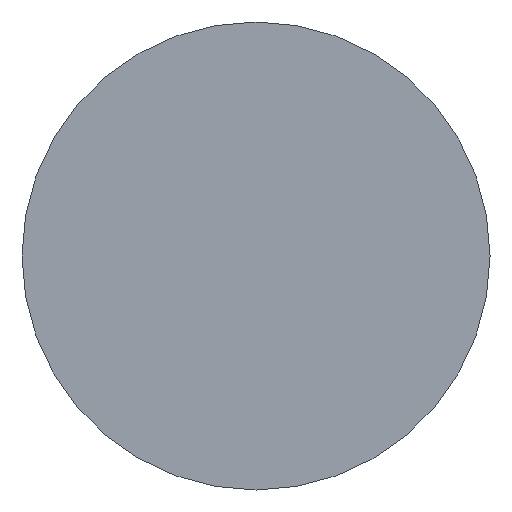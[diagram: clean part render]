
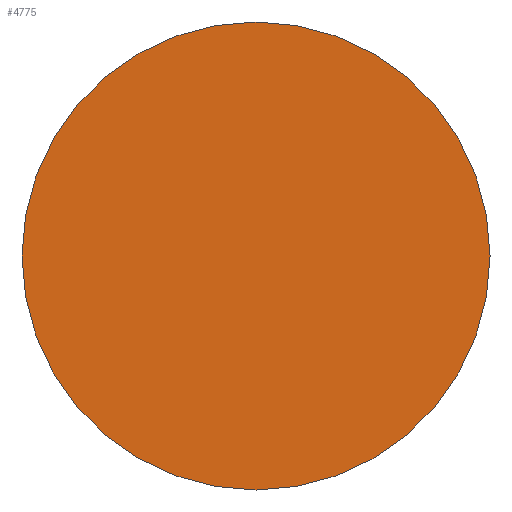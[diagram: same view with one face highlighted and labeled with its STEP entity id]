
A CAD part, front view. The second image highlights one B-rep face of the part: STEP entity #4775.
In plain terms, the highlighted planar face has unit normal (0, -1, 0).
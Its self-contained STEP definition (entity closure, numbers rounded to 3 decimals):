
#1189 = DIRECTION ( 'NONE',  ( 0., 1., 0. ) ) ;
#2241 = DIRECTION ( 'NONE',  ( 0., 0., 1. ) ) ;
#2279 = DIRECTION ( 'NONE',  ( 0., 1., 0. ) ) ;
#2386 = AXIS2_PLACEMENT_3D ( 'NONE', #8464, #5515, #7586 ) ;
#3266 = CIRCLE ( 'NONE', #8578, 25. ) ;
#3588 = FACE_OUTER_BOUND ( 'NONE', #5790, .T. ) ;
#4775 = ADVANCED_FACE ( 'NONE', ( #3588 ), #8590, .F. ) ;
#5247 = DIRECTION ( 'NONE',  ( 0., 0., 1. ) ) ;
#5515 = DIRECTION ( 'NONE',  ( 0., 1., 0. ) ) ;
#5790 = EDGE_LOOP ( 'NONE', ( #10976, #7684 ) ) ;
#6224 = CARTESIAN_POINT ( 'NONE',  ( 0., -3., 0. ) ) ;
#7418 = EDGE_CURVE ( 'NONE', #10460, #12265, #3266, .T. ) ;
#7586 = DIRECTION ( 'NONE',  ( 0., 0., 1. ) ) ;
#7684 = ORIENTED_EDGE ( 'NONE', *, *, #10440, .F. ) ;
#8080 = AXIS2_PLACEMENT_3D ( 'NONE', #11251, #2279, #5247 ) ;
#8464 = CARTESIAN_POINT ( 'NONE',  ( 28.4, -3., 0. ) ) ;
#8578 = AXIS2_PLACEMENT_3D ( 'NONE', #6224, #1189, #2241 ) ;
#8590 = PLANE ( 'NONE',  #2386 ) ;
#9358 = CIRCLE ( 'NONE', #8080, 25. ) ;
#10245 = CARTESIAN_POINT ( 'NONE',  ( 0., -3., 25. ) ) ;
#10440 = EDGE_CURVE ( 'NONE', #12265, #10460, #9358, .T. ) ;
#10460 = VERTEX_POINT ( 'NONE', #10245 ) ;
#10976 = ORIENTED_EDGE ( 'NONE', *, *, #7418, .F. ) ;
#11251 = CARTESIAN_POINT ( 'NONE',  ( 0., -3., 0. ) ) ;
#12019 = CARTESIAN_POINT ( 'NONE',  ( 0., -3., -25. ) ) ;
#12265 = VERTEX_POINT ( 'NONE', #12019 ) ;
